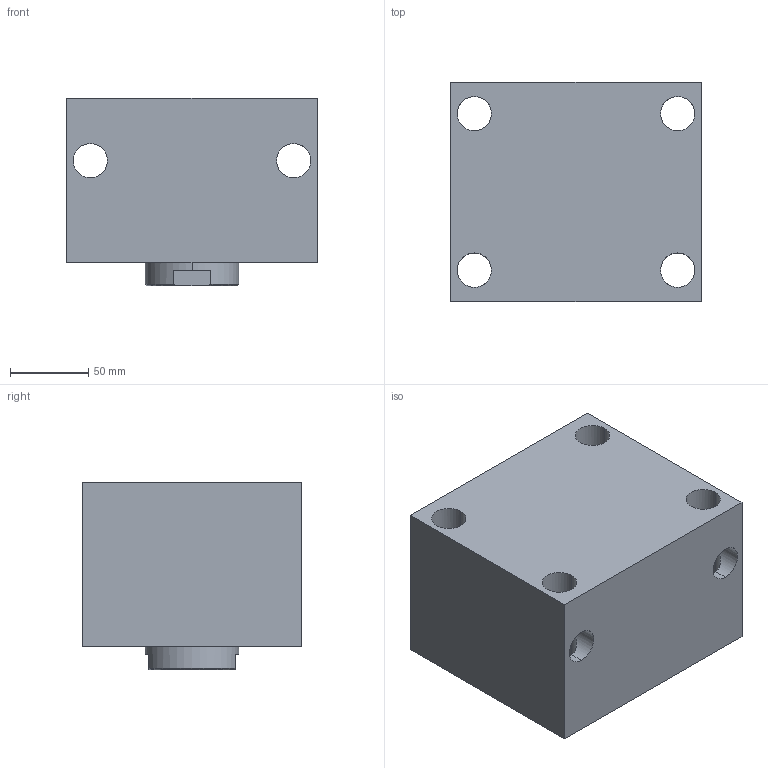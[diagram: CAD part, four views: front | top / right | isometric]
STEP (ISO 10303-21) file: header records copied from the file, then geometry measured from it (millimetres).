
FILE_DESCRIPTION (( 'STEP AP203' ), '1' );
FILE_NAME ('Block cylinder B01C-925F.STEP', '2022-07-09T18:41:08', ( '' ), ( '' ), 'SwSTEP 2.0', 'SolidWorks 2017', '' );
FILE_SCHEMA (( 'CONFIG_CONTROL_DESIGN' ));
Length unit declared in the file: millimetre
Products named in the file (3): Body_ 925F_50ST; Piston _925F; Block cylinder B01C-925F
Assembly tree (2 placements, depth 2):
  Block cylinder B01C-925F
    Body_ 925F_50ST
    Piston _925F
Bounding box: 160 x 140 x 120 mm (x, y, z)
Volume: 2280294.9 mm3; surface area: 195624.5 mm2
Topology: 2 solids, 2 shells, 347 faces, 958 edges, 626 vertices
Faces by surface type: bspline 154, plane 141, cylinder 44, cone 8
Entity records: 17719 total; most frequent: CARTESIAN_POINT 9694, ORIENTED_EDGE 1904, DIRECTION 1060, EDGE_CURVE 952, VERTEX_POINT 626, VECTOR 540, LINE 540, EDGE_LOOP 386
